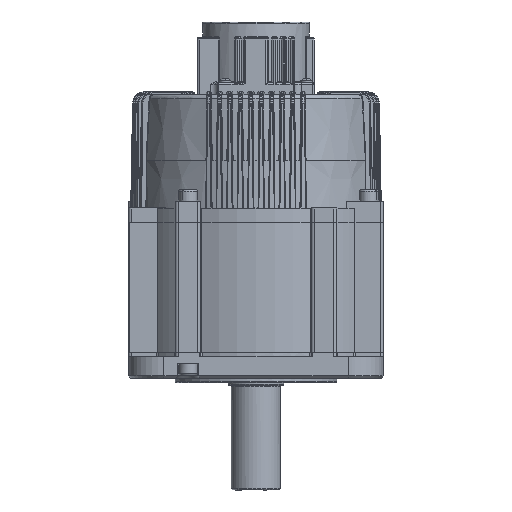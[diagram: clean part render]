
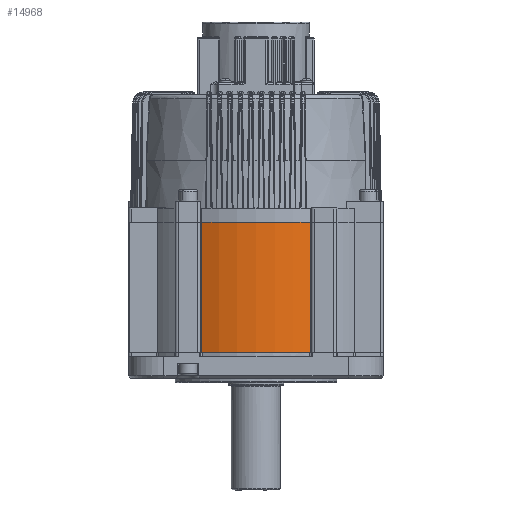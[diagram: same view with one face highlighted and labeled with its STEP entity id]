
A CAD part, front view. The second image highlights one B-rep face of the part: STEP entity #14968.
In plain terms, the highlighted cylindrical face has radius 90 mm (diameter 180 mm), a partial arc.
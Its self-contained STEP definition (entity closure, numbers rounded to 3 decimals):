
#389 = DIRECTION ( 'NONE',  ( 0., 0., 1. ) ) ;
#1370 = CARTESIAN_POINT ( 'NONE',  ( -38.287, -81.45, 92. ) ) ;
#1822 = DIRECTION ( 'NONE',  ( 0., 0., -1. ) ) ;
#5637 = VECTOR ( 'NONE', #1822, 1000. ) ;
#6770 = DIRECTION ( 'NONE',  ( -1., 0., 0. ) ) ;
#9600 = VERTEX_POINT ( 'NONE', #17674 ) ;
#14520 = DIRECTION ( 'NONE',  ( 0., 0., -1. ) ) ;
#14968 = ADVANCED_FACE ( 'NONE', ( #60223 ), #63226, .T. ) ;
#15055 = CARTESIAN_POINT ( 'NONE',  ( 38.287, -81.45, 92. ) ) ;
#15733 = ORIENTED_EDGE ( 'NONE', *, *, #82738, .T. ) ;
#17674 = CARTESIAN_POINT ( 'NONE',  ( -38.287, -81.45, 0. ) ) ;
#18155 = DIRECTION ( 'NONE',  ( 0., 0., -1. ) ) ;
#19979 = ORIENTED_EDGE ( 'NONE', *, *, #48399, .F. ) ;
#22901 = AXIS2_PLACEMENT_3D ( 'NONE', #115826, #389, #73425 ) ;
#37131 = CARTESIAN_POINT ( 'NONE',  ( 38.287, -81.45, 92. ) ) ;
#37551 = CIRCLE ( 'NONE', #22901, 90. ) ;
#41821 = EDGE_LOOP ( 'NONE', ( #15733, #43891, #115293, #19979 ) ) ;
#43891 = ORIENTED_EDGE ( 'NONE', *, *, #85614, .F. ) ;
#46495 = LINE ( 'NONE', #1370, #5637 ) ;
#48399 = EDGE_CURVE ( 'NONE', #89964, #102003, #37551, .T. ) ;
#53728 = AXIS2_PLACEMENT_3D ( 'NONE', #77159, #14520, #6770 ) ;
#56095 = VERTEX_POINT ( 'NONE', #104855 ) ;
#60223 = FACE_OUTER_BOUND ( 'NONE', #41821, .T. ) ;
#63226 = CYLINDRICAL_SURFACE ( 'NONE', #53728, 90. ) ;
#64801 = CARTESIAN_POINT ( 'NONE',  ( -38.287, -81.45, 92. ) ) ;
#65829 = DIRECTION ( 'NONE',  ( 0., 0., -1. ) ) ;
#70592 = CIRCLE ( 'NONE', #92884, 90. ) ;
#73235 = EDGE_CURVE ( 'NONE', #102003, #56095, #112160, .T. ) ;
#73425 = DIRECTION ( 'NONE',  ( 1., 0., 0. ) ) ;
#77159 = CARTESIAN_POINT ( 'NONE',  ( 0., 0., 92. ) ) ;
#82738 = EDGE_CURVE ( 'NONE', #89964, #9600, #46495, .T. ) ;
#85614 = EDGE_CURVE ( 'NONE', #56095, #9600, #70592, .T. ) ;
#89964 = VERTEX_POINT ( 'NONE', #64801 ) ;
#91242 = CARTESIAN_POINT ( 'NONE',  ( 0., 0., 0. ) ) ;
#92884 = AXIS2_PLACEMENT_3D ( 'NONE', #91242, #18155, #133264 ) ;
#102003 = VERTEX_POINT ( 'NONE', #37131 ) ;
#104855 = CARTESIAN_POINT ( 'NONE',  ( 38.287, -81.45, 0. ) ) ;
#108905 = VECTOR ( 'NONE', #65829, 1000. ) ;
#112160 = LINE ( 'NONE', #15055, #108905 ) ;
#115293 = ORIENTED_EDGE ( 'NONE', *, *, #73235, .F. ) ;
#115826 = CARTESIAN_POINT ( 'NONE',  ( 0., 0., 92. ) ) ;
#133264 = DIRECTION ( 'NONE',  ( -1., 0., 0. ) ) ;
